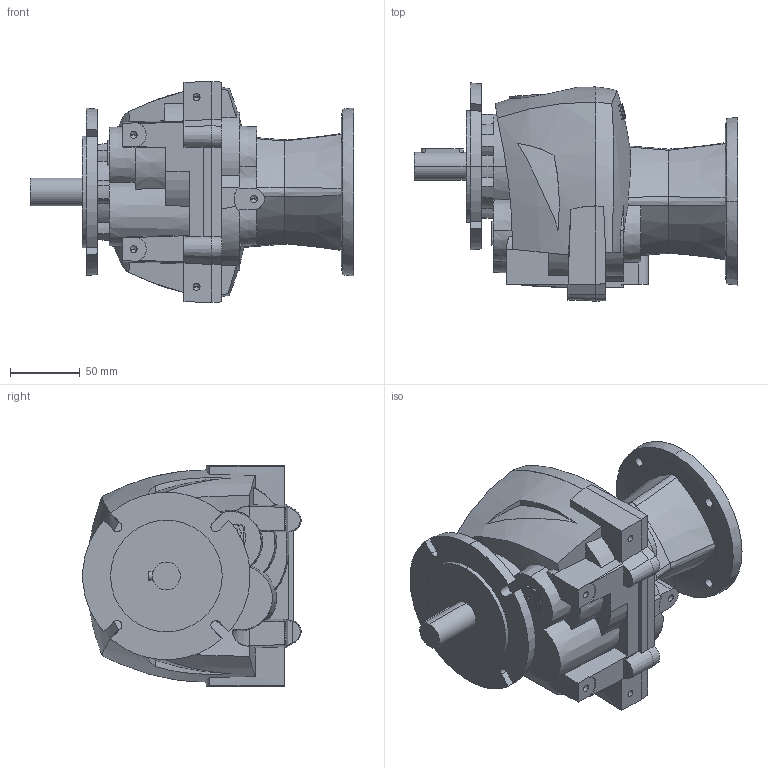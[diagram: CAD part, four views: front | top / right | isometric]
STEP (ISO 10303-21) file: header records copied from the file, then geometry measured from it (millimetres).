
FILE_DESCRIPTION (( 'STEP AP203' ), '1' );
FILE_NAME ('RBA2_IFL80B4_OFL120_OSH20L40.STEP', '2013-02-07T11:39:18', ( '' ), ( '' ), 'SwSTEP 2.0', 'SolidWorks 2012', '' );
FILE_SCHEMA (( 'CONFIG_CONTROL_DESIGN' ));
Length unit declared in the file: millimetre
Products named in the file (1): RBA2_IFL80B4_OFL120_OSH20L40
Bounding box: 231.5 x 156.3 x 158 mm (x, y, z)
Volume: 1927117.1 mm3; surface area: 155201.6 mm2
Topology: 1 solids, 1 shells, 485 faces, 1356 edges, 895 vertices
Faces by surface type: plane 216, cylinder 128, bspline 74, cone 63, torus 4
Entity records: 21920 total; most frequent: CARTESIAN_POINT 10558, ORIENTED_EDGE 2692, DIRECTION 1865, EDGE_CURVE 1346, VERTEX_POINT 895, AXIS2_PLACEMENT_3D 685, B_SPLINE_CURVE_WITH_KNOTS 539, EDGE_LOOP 525
